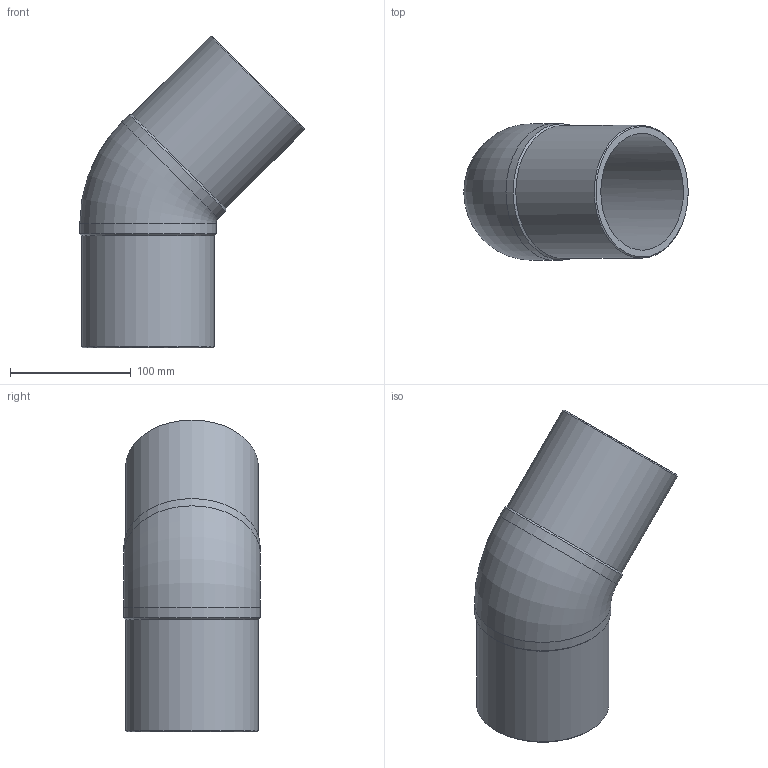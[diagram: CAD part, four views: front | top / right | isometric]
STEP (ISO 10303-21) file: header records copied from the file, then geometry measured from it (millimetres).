
FILE_DESCRIPTION(/* description */ ('Unknown'),/* implementation_level */ '2;1');
FILE_NAME(/* name */ 'G4P110B',/* time_stamp */ '2022-01-17T11:38:52+01:00',/* author */ ('Unknown'),/* organization */ ('Unknown'),/* preprocessor_version */ 'ST-DEVELOPER v18.1',/* originating_system */ 'Solid Edge',/* authorisation */ 'Unknown');
FILE_SCHEMA (('AUTOMOTIVE_DESIGN {1 0 10303 214 3 1 1}'));
Length unit declared in the file: millimetre
Products named in the file (1): G4P110B
Bounding box: 185.9 x 113 x 258.4 mm (x, y, z)
Volume: 584142.6 mm3; surface area: 170857.3 mm2
Topology: 1 solids, 1 shells, 14 faces, 34 edges, 22 vertices
Faces by surface type: cylinder 6, cone 4, plane 2, torus 2
Full cylindrical faces by diameter (mm): 96.8 x2, 110 x2, 113 x2
Entity records: 364 total; most frequent: CARTESIAN_POINT 64, DIRECTION 60, ORIENTED_EDGE 38, AXIS2_PLACEMENT_3D 30, EDGE_LOOP 27, FACE_BOUND 27, EDGE_CURVE 19, VERTEX_POINT 18
